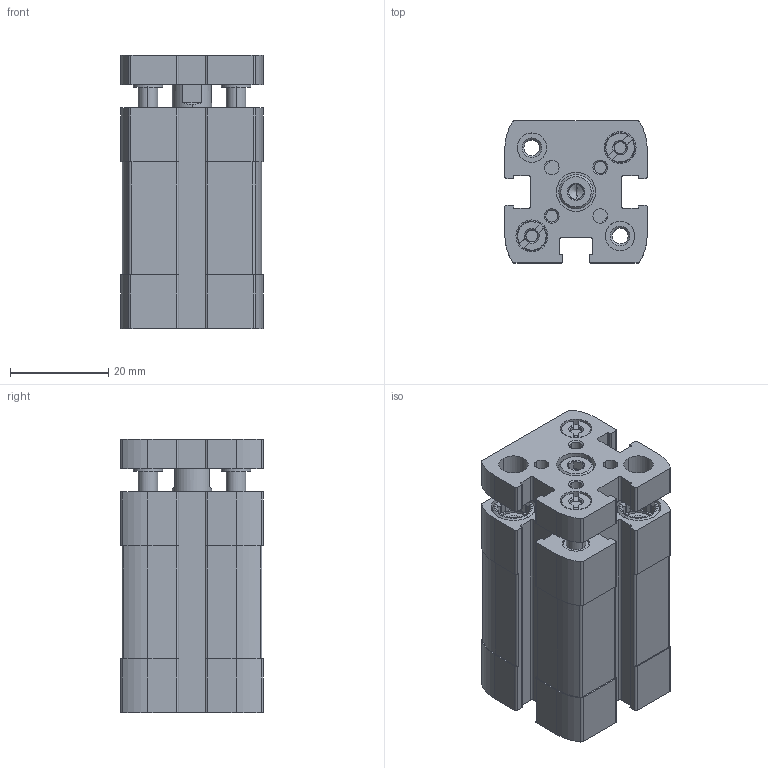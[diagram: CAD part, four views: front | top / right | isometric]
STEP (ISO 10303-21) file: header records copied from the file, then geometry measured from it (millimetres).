
FILE_DESCRIPTION (( 'STEP AP203' ), '1' );
FILE_NAME ('CCNG16-10.STEP', '2017-04-13T14:27:05', ( '' ), ( '' ), 'SwSTEP 2.0', 'SolidWorks 2016', '' );
FILE_SCHEMA (( 'CONFIG_CONTROL_DESIGN' ));
Length unit declared in the file: millimetre
Products named in the file (3): CCNG-16-10--(Z); CCNG-16-10---(KS); CCNG16-10
Assembly tree (2 placements, depth 2):
  CCNG16-10
    CCNG-16-10--(Z)
    CCNG-16-10---(KS)
Bounding box: 29 x 29 x 55.7 mm (x, y, z)
Volume: 32676.7 mm3; surface area: 18438.4 mm2
Topology: 2 solids, 6 shells, 545 faces, 1414 edges, 921 vertices
Faces by surface type: plane 257, cylinder 214, cone 70, bspline 4
Entity records: 17273 total; most frequent: CARTESIAN_POINT 3359, DIRECTION 2902, ORIENTED_EDGE 2824, EDGE_CURVE 1412, AXIS2_PLACEMENT_3D 1076, VERTEX_POINT 921, LINE 750, VECTOR 750
